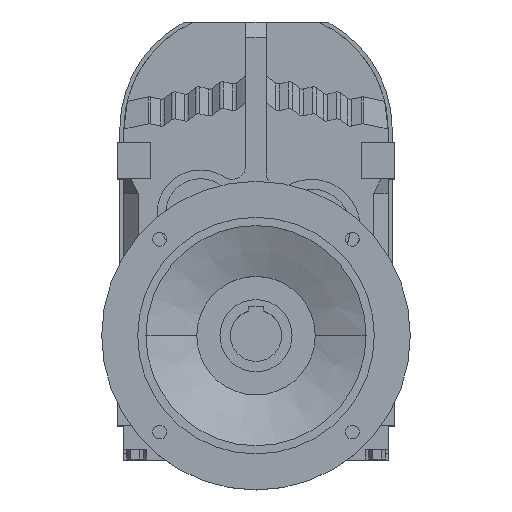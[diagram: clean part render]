
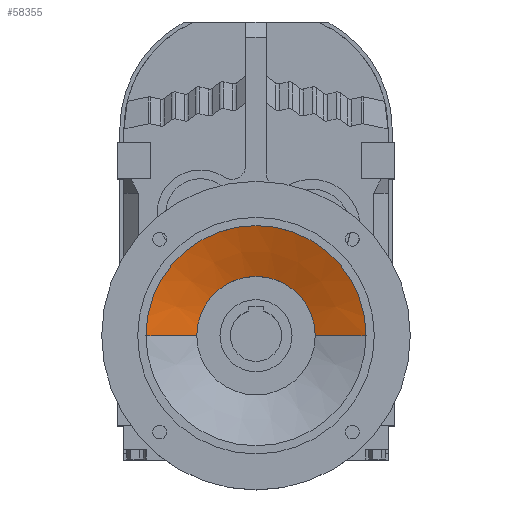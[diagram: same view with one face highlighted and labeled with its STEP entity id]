
A CAD part, top view. The second image highlights one B-rep face of the part: STEP entity #58355.
In plain terms, the highlighted conical face has half-angle 68.962 degrees and reference radius 107 mm.
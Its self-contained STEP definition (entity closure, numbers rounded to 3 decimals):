
#57912 = CYLINDRICAL_SURFACE('',#57913,107.);
#57913 = AXIS2_PLACEMENT_3D('',#57914,#57915,#57916);
#57914 = CARTESIAN_POINT('',(0.,-200.,0.));
#57915 = DIRECTION('',(0.,0.,-1.));
#57916 = DIRECTION('',(-1.,0.,0.));
#58061 = VERTEX_POINT('',#58062);
#58062 = CARTESIAN_POINT('',(-107.,-200.,224.));
#58082 = VERTEX_POINT('',#58083);
#58083 = CARTESIAN_POINT('',(107.,-200.,224.));
#58097 = CONICAL_SURFACE('',#58098,107.,1.204);
#58098 = AXIS2_PLACEMENT_3D('',#58099,#58100,#58101);
#58099 = CARTESIAN_POINT('',(0.,-200.,224.));
#58100 = DIRECTION('',(0.,0.,1.));
#58101 = DIRECTION('',(1.,0.,0.));
#58154 = EDGE_CURVE('',#58061,#58082,#58155,.T.);
#58155 = SURFACE_CURVE('',#58156,(#58161,#58167),.PCURVE_S1.);
#58156 = CIRCLE('',#58157,107.);
#58157 = AXIS2_PLACEMENT_3D('',#58158,#58159,#58160);
#58158 = CARTESIAN_POINT('',(0.,-200.,224.));
#58159 = DIRECTION('',(0.,0.,-1.));
#58160 = DIRECTION('',(-1.,0.,0.));
#58161 = PCURVE('',#57912,#58162);
#58162 = DEFINITIONAL_REPRESENTATION('',(#58163),#58166);
#58163 = B_SPLINE_CURVE_WITH_KNOTS('',1,(#58164,#58165),.UNSPECIFIED.,
  .F.,.F.,(2,2),(0.,3.142),.PIECEWISE_BEZIER_KNOTS.);
#58164 = CARTESIAN_POINT('',(0.,-224.));
#58165 = CARTESIAN_POINT('',(3.142,-224.));
#58166 = ( GEOMETRIC_REPRESENTATION_CONTEXT(2) 
PARAMETRIC_REPRESENTATION_CONTEXT() REPRESENTATION_CONTEXT('2D SPACE',''
  ) );
#58167 = PCURVE('',#58168,#58173);
#58168 = CONICAL_SURFACE('',#58169,107.,1.204);
#58169 = AXIS2_PLACEMENT_3D('',#58170,#58171,#58172);
#58170 = CARTESIAN_POINT('',(0.,-200.,224.));
#58171 = DIRECTION('',(0.,0.,1.));
#58172 = DIRECTION('',(1.,0.,0.));
#58173 = DEFINITIONAL_REPRESENTATION('',(#58174),#58200);
#58174 = B_SPLINE_CURVE_WITH_KNOTS('',3,(#58175,#58176,#58177,#58178,
    #58179,#58180,#58181,#58182,#58183,#58184,#58185,#58186,#58187,
    #58188,#58189,#58190,#58191,#58192,#58193,#58194,#58195,#58196,
    #58197,#58198,#58199),.UNSPECIFIED.,.F.,.F.,(4,1,1,1,1,1,1,1,1,1,1,1
    ,1,1,1,1,1,1,1,1,1,1,4),(0.,0.143,0.286,
    0.428,0.571,0.714,0.857,
    1.,1.142,1.285,1.428,
    1.571,1.714,1.856,1.999,
    2.142,2.285,2.428,2.57,
    2.713,2.856,2.999,3.142),
  .QUASI_UNIFORM_KNOTS.);
#58175 = CARTESIAN_POINT('',(3.142,0.));
#58176 = CARTESIAN_POINT('',(3.094,0.));
#58177 = CARTESIAN_POINT('',(2.999,0.));
#58178 = CARTESIAN_POINT('',(2.856,0.));
#58179 = CARTESIAN_POINT('',(2.713,0.));
#58180 = CARTESIAN_POINT('',(2.57,0.));
#58181 = CARTESIAN_POINT('',(2.428,0.));
#58182 = CARTESIAN_POINT('',(2.285,0.));
#58183 = CARTESIAN_POINT('',(2.142,0.));
#58184 = CARTESIAN_POINT('',(1.999,0.));
#58185 = CARTESIAN_POINT('',(1.856,0.));
#58186 = CARTESIAN_POINT('',(1.714,0.));
#58187 = CARTESIAN_POINT('',(1.571,0.));
#58188 = CARTESIAN_POINT('',(1.428,0.));
#58189 = CARTESIAN_POINT('',(1.285,0.));
#58190 = CARTESIAN_POINT('',(1.142,0.));
#58191 = CARTESIAN_POINT('',(1.,0.));
#58192 = CARTESIAN_POINT('',(0.857,0.));
#58193 = CARTESIAN_POINT('',(0.714,0.));
#58194 = CARTESIAN_POINT('',(0.571,0.));
#58195 = CARTESIAN_POINT('',(0.428,0.));
#58196 = CARTESIAN_POINT('',(0.286,0.));
#58197 = CARTESIAN_POINT('',(0.143,0.));
#58198 = CARTESIAN_POINT('',(0.048,0.));
#58199 = CARTESIAN_POINT('',(0.,0.));
#58200 = ( GEOMETRIC_REPRESENTATION_CONTEXT(2) 
PARAMETRIC_REPRESENTATION_CONTEXT() REPRESENTATION_CONTEXT('2D SPACE',''
  ) );
#58230 = CYLINDRICAL_SURFACE('',#58231,57.6);
#58231 = AXIS2_PLACEMENT_3D('',#58232,#58233,#58234);
#58232 = CARTESIAN_POINT('',(0.,-200.,0.));
#58233 = DIRECTION('',(0.,0.,-1.));
#58234 = DIRECTION('',(-1.,0.,0.));
#58271 = VERTEX_POINT('',#58272);
#58272 = CARTESIAN_POINT('',(57.6,-200.,205.));
#58273 = VERTEX_POINT('',#58274);
#58274 = CARTESIAN_POINT('',(-57.6,-200.,205.));
#58317 = EDGE_CURVE('',#58271,#58082,#58318,.T.);
#58318 = SURFACE_CURVE('',#58319,(#58323,#58329),.PCURVE_S1.);
#58319 = LINE('',#58320,#58321);
#58320 = CARTESIAN_POINT('',(107.,-200.,224.));
#58321 = VECTOR('',#58322,1.);
#58322 = DIRECTION('',(0.933,0.,0.359));
#58323 = PCURVE('',#58097,#58324);
#58324 = DEFINITIONAL_REPRESENTATION('',(#58325),#58328);
#58325 = B_SPLINE_CURVE_WITH_KNOTS('',1,(#58326,#58327),.UNSPECIFIED.,
  .F.,.F.,(2,2),(-52.928,0.),.PIECEWISE_BEZIER_KNOTS.);
#58326 = CARTESIAN_POINT('',(6.283,-19.));
#58327 = CARTESIAN_POINT('',(6.283,0.));
#58328 = ( GEOMETRIC_REPRESENTATION_CONTEXT(2) 
PARAMETRIC_REPRESENTATION_CONTEXT() REPRESENTATION_CONTEXT('2D SPACE',''
  ) );
#58329 = PCURVE('',#58168,#58330);
#58330 = DEFINITIONAL_REPRESENTATION('',(#58331),#58334);
#58331 = B_SPLINE_CURVE_WITH_KNOTS('',1,(#58332,#58333),.UNSPECIFIED.,
  .F.,.F.,(2,2),(-52.928,0.),.PIECEWISE_BEZIER_KNOTS.);
#58332 = CARTESIAN_POINT('',(0.,-19.));
#58333 = CARTESIAN_POINT('',(0.,0.));
#58334 = ( GEOMETRIC_REPRESENTATION_CONTEXT(2) 
PARAMETRIC_REPRESENTATION_CONTEXT() REPRESENTATION_CONTEXT('2D SPACE',''
  ) );
#58337 = EDGE_CURVE('',#58273,#58061,#58338,.T.);
#58338 = SURFACE_CURVE('',#58339,(#58343,#58349),.PCURVE_S1.);
#58339 = LINE('',#58340,#58341);
#58340 = CARTESIAN_POINT('',(-107.,-200.,224.));
#58341 = VECTOR('',#58342,1.);
#58342 = DIRECTION('',(-0.933,0.,
    0.359));
#58343 = PCURVE('',#58097,#58344);
#58344 = DEFINITIONAL_REPRESENTATION('',(#58345),#58348);
#58345 = B_SPLINE_CURVE_WITH_KNOTS('',1,(#58346,#58347),.UNSPECIFIED.,
  .F.,.F.,(2,2),(-52.928,0.),.PIECEWISE_BEZIER_KNOTS.);
#58346 = CARTESIAN_POINT('',(3.142,-19.));
#58347 = CARTESIAN_POINT('',(3.142,0.));
#58348 = ( GEOMETRIC_REPRESENTATION_CONTEXT(2) 
PARAMETRIC_REPRESENTATION_CONTEXT() REPRESENTATION_CONTEXT('2D SPACE',''
  ) );
#58349 = PCURVE('',#58168,#58350);
#58350 = DEFINITIONAL_REPRESENTATION('',(#58351),#58354);
#58351 = B_SPLINE_CURVE_WITH_KNOTS('',1,(#58352,#58353),.UNSPECIFIED.,
  .F.,.F.,(2,2),(-52.928,0.),.PIECEWISE_BEZIER_KNOTS.);
#58352 = CARTESIAN_POINT('',(3.142,-19.));
#58353 = CARTESIAN_POINT('',(3.142,0.));
#58354 = ( GEOMETRIC_REPRESENTATION_CONTEXT(2) 
PARAMETRIC_REPRESENTATION_CONTEXT() REPRESENTATION_CONTEXT('2D SPACE',''
  ) );
#58355 = ADVANCED_FACE('',(#58356),#58168,.F.);
#58356 = FACE_BOUND('',#58357,.F.);
#58357 = EDGE_LOOP('',(#58358,#58359,#58360,#58361));
#58358 = ORIENTED_EDGE('',*,*,#58337,.T.);
#58359 = ORIENTED_EDGE('',*,*,#58154,.T.);
#58360 = ORIENTED_EDGE('',*,*,#58317,.F.);
#58361 = ORIENTED_EDGE('',*,*,#58362,.F.);
#58362 = EDGE_CURVE('',#58273,#58271,#58363,.T.);
#58363 = SURFACE_CURVE('',#58364,(#58369,#58398),.PCURVE_S1.);
#58364 = CIRCLE('',#58365,57.6);
#58365 = AXIS2_PLACEMENT_3D('',#58366,#58367,#58368);
#58366 = CARTESIAN_POINT('',(0.,-200.,205.));
#58367 = DIRECTION('',(0.,0.,-1.));
#58368 = DIRECTION('',(-1.,0.,0.));
#58369 = PCURVE('',#58168,#58370);
#58370 = DEFINITIONAL_REPRESENTATION('',(#58371),#58397);
#58371 = B_SPLINE_CURVE_WITH_KNOTS('',3,(#58372,#58373,#58374,#58375,
    #58376,#58377,#58378,#58379,#58380,#58381,#58382,#58383,#58384,
    #58385,#58386,#58387,#58388,#58389,#58390,#58391,#58392,#58393,
    #58394,#58395,#58396),.UNSPECIFIED.,.F.,.F.,(4,1,1,1,1,1,1,1,1,1,1,1
    ,1,1,1,1,1,1,1,1,1,1,4),(0.,0.143,0.286,
    0.428,0.571,0.714,0.857,
    1.,1.142,1.285,1.428,
    1.571,1.714,1.856,1.999,
    2.142,2.285,2.428,2.57,
    2.713,2.856,2.999,3.142),
  .QUASI_UNIFORM_KNOTS.);
#58372 = CARTESIAN_POINT('',(3.142,-19.));
#58373 = CARTESIAN_POINT('',(3.094,-19.));
#58374 = CARTESIAN_POINT('',(2.999,-19.));
#58375 = CARTESIAN_POINT('',(2.856,-19.));
#58376 = CARTESIAN_POINT('',(2.713,-19.));
#58377 = CARTESIAN_POINT('',(2.57,-19.));
#58378 = CARTESIAN_POINT('',(2.428,-19.));
#58379 = CARTESIAN_POINT('',(2.285,-19.));
#58380 = CARTESIAN_POINT('',(2.142,-19.));
#58381 = CARTESIAN_POINT('',(1.999,-19.));
#58382 = CARTESIAN_POINT('',(1.856,-19.));
#58383 = CARTESIAN_POINT('',(1.714,-19.));
#58384 = CARTESIAN_POINT('',(1.571,-19.));
#58385 = CARTESIAN_POINT('',(1.428,-19.));
#58386 = CARTESIAN_POINT('',(1.285,-19.));
#58387 = CARTESIAN_POINT('',(1.142,-19.));
#58388 = CARTESIAN_POINT('',(1.,-19.));
#58389 = CARTESIAN_POINT('',(0.857,-19.));
#58390 = CARTESIAN_POINT('',(0.714,-19.));
#58391 = CARTESIAN_POINT('',(0.571,-19.));
#58392 = CARTESIAN_POINT('',(0.428,-19.));
#58393 = CARTESIAN_POINT('',(0.286,-19.));
#58394 = CARTESIAN_POINT('',(0.143,-19.));
#58395 = CARTESIAN_POINT('',(0.048,-19.));
#58396 = CARTESIAN_POINT('',(0.,-19.));
#58397 = ( GEOMETRIC_REPRESENTATION_CONTEXT(2) 
PARAMETRIC_REPRESENTATION_CONTEXT() REPRESENTATION_CONTEXT('2D SPACE',''
  ) );
#58398 = PCURVE('',#58230,#58399);
#58399 = DEFINITIONAL_REPRESENTATION('',(#58400),#58403);
#58400 = B_SPLINE_CURVE_WITH_KNOTS('',1,(#58401,#58402),.UNSPECIFIED.,
  .F.,.F.,(2,2),(0.,3.142),.PIECEWISE_BEZIER_KNOTS.);
#58401 = CARTESIAN_POINT('',(0.,-205.));
#58402 = CARTESIAN_POINT('',(3.142,-205.));
#58403 = ( GEOMETRIC_REPRESENTATION_CONTEXT(2) 
PARAMETRIC_REPRESENTATION_CONTEXT() REPRESENTATION_CONTEXT('2D SPACE',''
  ) );
